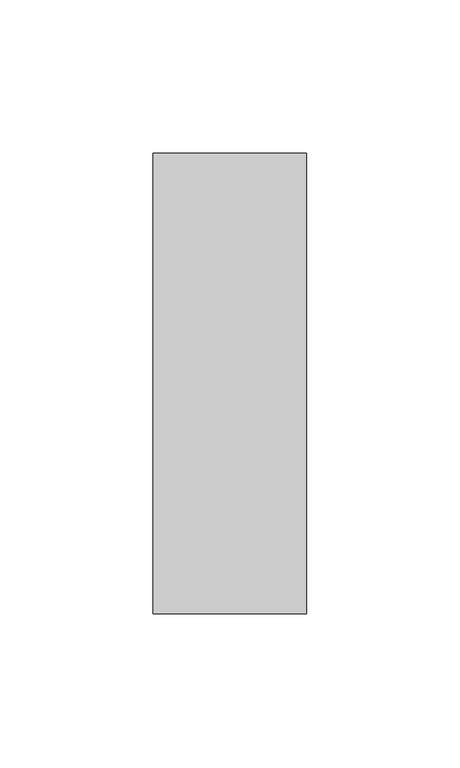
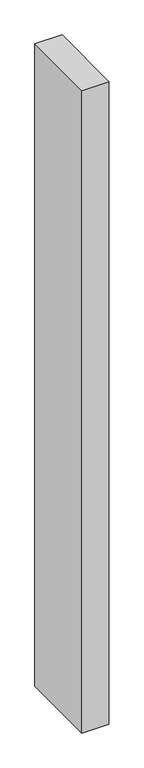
"""IFC4 building model written with IfcOpenShell, lengths in millimetres: member geometry, Прямоугольный импост : 50 x 150 мм."""

from ifc_helpers import new_model, si_unit, frame, origin, place, context, project, spatial, polyline, outline, extrude, source, transform, mapped, element, save


def member_2e956dbd(model_context):
    return source(origin(), model_context, "Body", "SweptSolid", [
        extrude(outline(polyline([(25.0, 75.0), (25.0, -75.0), (-25.0, -75.0), (-25.0, 75.0), (25.0, 75.0)])), frame((0.0, 0.0, -1252.4996087), z_axis=(0.0, 0.0, 1.0), x_axis=(1.0, 0.0, 0.0)), (0.0, 0.0, 1.0), 1252.4996087),
    ])


if __name__ == "__main__":
    model = new_model("IFC4")
    model_context = context("Model", 3, world=origin())
    ifc_project = project(units=[si_unit("LENGTHUNIT", "METRE", prefix="MILLI")], contexts=[model_context])
    site = spatial("IfcSite", under=ifc_project)
    building = spatial("IfcBuilding", under=site)
    placement = place(None, origin())
    member_shape = member_2e956dbd(model_context)
    element("IfcMember", 1, ObjectType="Прямоугольный импост : 50 x 150 мм", at=placement, inside=building, context=model_context, shape_type="MappedRepresentation", body=[
        mapped(member_shape, transform((0.0, 0.0, 0.0), x_axis=(1.0, 0.0, 0.0), y_axis=(0.0, 1.0, 0.0), z_axis=(0.0, 0.0, 1.0))),
    ])
    save(model, "model.ifc")
